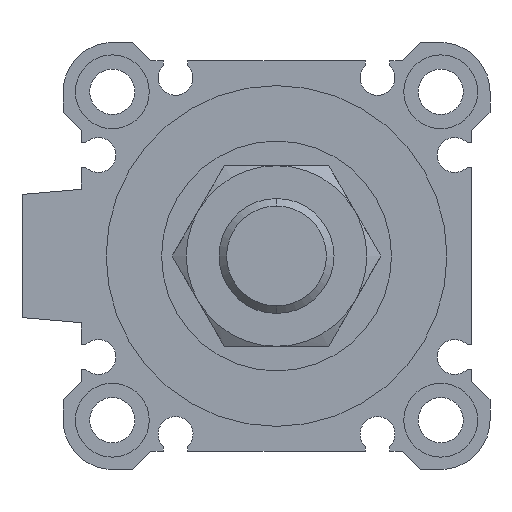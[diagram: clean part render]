
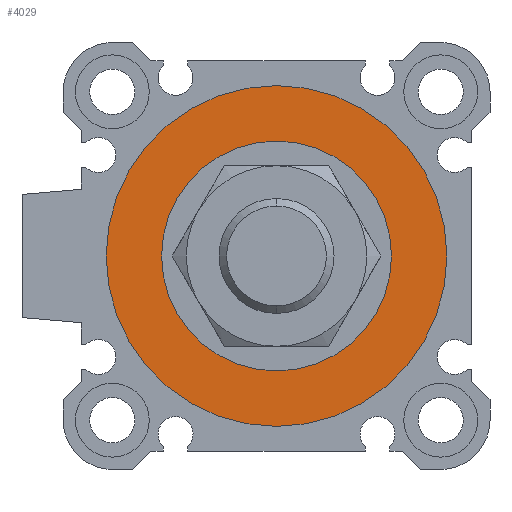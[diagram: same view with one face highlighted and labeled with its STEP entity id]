
A CAD part, left-side view. The second image highlights one B-rep face of the part: STEP entity #4029.
In plain terms, the highlighted planar face has unit normal (-1, 0, 0).
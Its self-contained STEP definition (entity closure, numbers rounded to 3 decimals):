
#54 = CARTESIAN_POINT ( 'NONE',  ( 3.3, 0., 0. ) ) ;
#125 = PLANE ( 'NONE',  #3637 ) ;
#326 = CARTESIAN_POINT ( 'NONE',  ( 3.3, 0., 0. ) ) ;
#556 = DIRECTION ( 'NONE',  ( 0., 0., -1. ) ) ;
#581 = CARTESIAN_POINT ( 'NONE',  ( 3.3, 0., 20.75 ) ) ;
#619 = VERTEX_POINT ( 'NONE', #581 ) ;
#687 = FACE_BOUND ( 'NONE', #3594, .T. ) ;
#794 = DIRECTION ( 'NONE',  ( 1., 0., 0. ) ) ;
#917 = AXIS2_PLACEMENT_3D ( 'NONE', #326, #794, #2558 ) ;
#930 = EDGE_CURVE ( 'NONE', #619, #1407, #3371, .T. ) ;
#1197 = VERTEX_POINT ( 'NONE', #6606 ) ;
#1361 = CARTESIAN_POINT ( 'NONE',  ( 3.3, 0., 14. ) ) ;
#1368 = CARTESIAN_POINT ( 'NONE',  ( 3.3, 0., 0. ) ) ;
#1407 = VERTEX_POINT ( 'NONE', #5949 ) ;
#1676 = CARTESIAN_POINT ( 'NONE',  ( 3.3, 0., 0. ) ) ;
#1789 = CIRCLE ( 'NONE', #2025, 14. ) ;
#1829 = CIRCLE ( 'NONE', #4547, 14. ) ;
#1931 = DIRECTION ( 'NONE',  ( 0., 0., -1. ) ) ;
#1963 = ORIENTED_EDGE ( 'NONE', *, *, #930, .F. ) ;
#2025 = AXIS2_PLACEMENT_3D ( 'NONE', #1676, #2147, #556 ) ;
#2147 = DIRECTION ( 'NONE',  ( 1., 0., 0. ) ) ;
#2511 = EDGE_CURVE ( 'NONE', #1197, #5449, #1789, .T. ) ;
#2558 = DIRECTION ( 'NONE',  ( 0., 0., -1. ) ) ;
#2731 = CIRCLE ( 'NONE', #917, 20.75 ) ;
#2782 = EDGE_LOOP ( 'NONE', ( #1963, #4563 ) ) ;
#3147 = AXIS2_PLACEMENT_3D ( 'NONE', #1368, #6833, #1931 ) ;
#3313 = CARTESIAN_POINT ( 'NONE',  ( 3.3, 0., 0. ) ) ;
#3371 = CIRCLE ( 'NONE', #3147, 20.75 ) ;
#3581 = DIRECTION ( 'NONE',  ( 0., 0., -1. ) ) ;
#3594 = EDGE_LOOP ( 'NONE', ( #6493, #6640 ) ) ;
#3637 = AXIS2_PLACEMENT_3D ( 'NONE', #54, #5976, #4337 ) ;
#4029 = ADVANCED_FACE ( 'NONE', ( #5942, #687 ), #125, .F. ) ;
#4337 = DIRECTION ( 'NONE',  ( 0., 1., 0. ) ) ;
#4547 = AXIS2_PLACEMENT_3D ( 'NONE', #3313, #5466, #3581 ) ;
#4563 = ORIENTED_EDGE ( 'NONE', *, *, #6940, .F. ) ;
#5199 = EDGE_CURVE ( 'NONE', #5449, #1197, #1829, .T. ) ;
#5449 = VERTEX_POINT ( 'NONE', #1361 ) ;
#5466 = DIRECTION ( 'NONE',  ( 1., 0., 0. ) ) ;
#5942 = FACE_OUTER_BOUND ( 'NONE', #2782, .T. ) ;
#5949 = CARTESIAN_POINT ( 'NONE',  ( 3.3, 0., -20.75 ) ) ;
#5976 = DIRECTION ( 'NONE',  ( 1., 0., 0. ) ) ;
#6493 = ORIENTED_EDGE ( 'NONE', *, *, #5199, .T. ) ;
#6606 = CARTESIAN_POINT ( 'NONE',  ( 3.3, 0., -14. ) ) ;
#6640 = ORIENTED_EDGE ( 'NONE', *, *, #2511, .T. ) ;
#6833 = DIRECTION ( 'NONE',  ( 1., 0., 0. ) ) ;
#6940 = EDGE_CURVE ( 'NONE', #1407, #619, #2731, .T. ) ;
